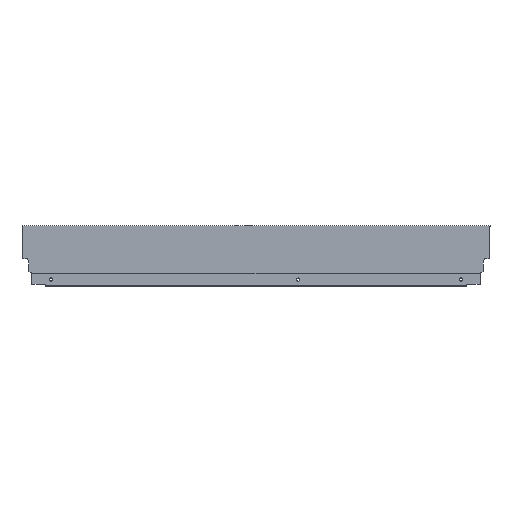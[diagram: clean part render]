
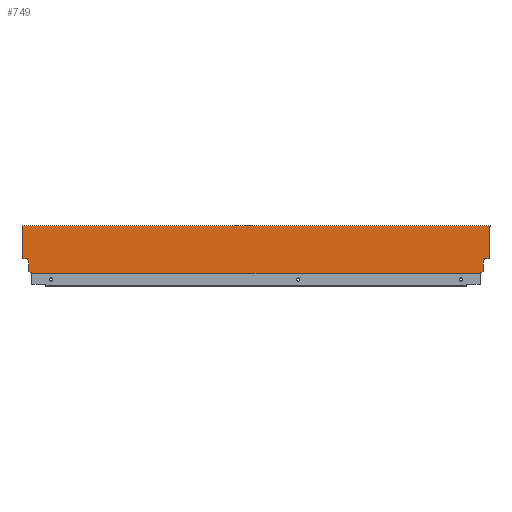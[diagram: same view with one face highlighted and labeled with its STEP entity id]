
A CAD part, top view. The second image highlights one B-rep face of the part: STEP entity #749.
In plain terms, the highlighted planar face has unit normal (0, 0, 1).
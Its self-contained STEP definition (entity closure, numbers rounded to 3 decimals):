
#183 = FACE_OUTER_BOUND ( 'NONE', #221, .T. ) ;
#221 = EDGE_LOOP ( 'NONE', ( #470, #496, #408, #476, #482, #479, #483, #499, #510, #520, #480, #469, #531, #502, #484, #500, #465, #478 ) ) ;
#408 = ORIENTED_EDGE ( 'NONE', *, *, #1616, .T. ) ;
#465 = ORIENTED_EDGE ( 'NONE', *, *, #1631, .F. ) ;
#469 = ORIENTED_EDGE ( 'NONE', *, *, #1628, .F. ) ;
#470 = ORIENTED_EDGE ( 'NONE', *, *, #1620, .F. ) ;
#476 = ORIENTED_EDGE ( 'NONE', *, *, #1621, .T. ) ;
#478 = ORIENTED_EDGE ( 'NONE', *, *, #1633, .F. ) ;
#479 = ORIENTED_EDGE ( 'NONE', *, *, #1615, .F. ) ;
#480 = ORIENTED_EDGE ( 'NONE', *, *, #1626, .F. ) ;
#482 = ORIENTED_EDGE ( 'NONE', *, *, #1618, .F. ) ;
#483 = ORIENTED_EDGE ( 'NONE', *, *, #1622, .F. ) ;
#484 = ORIENTED_EDGE ( 'NONE', *, *, #1629, .F. ) ;
#496 = ORIENTED_EDGE ( 'NONE', *, *, #1619, .F. ) ;
#499 = ORIENTED_EDGE ( 'NONE', *, *, #1623, .F. ) ;
#500 = ORIENTED_EDGE ( 'NONE', *, *, #1597, .F. ) ;
#502 = ORIENTED_EDGE ( 'NONE', *, *, #1627, .F. ) ;
#510 = ORIENTED_EDGE ( 'NONE', *, *, #1624, .F. ) ;
#520 = ORIENTED_EDGE ( 'NONE', *, *, #1614, .T. ) ;
#531 = ORIENTED_EDGE ( 'NONE', *, *, #1625, .F. ) ;
#665 = VECTOR ( 'NONE', #1149, 1000. ) ;
#666 = LINE ( 'NONE', #1148, #665 ) ;
#669 = VECTOR ( 'NONE', #1145, 1000. ) ;
#670 = LINE ( 'NONE', #1144, #669 ) ;
#673 = VECTOR ( 'NONE', #1141, 1000. ) ;
#674 = LINE ( 'NONE', #1140, #673 ) ;
#675 = VECTOR ( 'NONE', #1139, 1000. ) ;
#676 = LINE ( 'NONE', #1138, #675 ) ;
#677 = VECTOR ( 'NONE', #1137, 1000. ) ;
#678 = LINE ( 'NONE', #1136, #677 ) ;
#679 = VECTOR ( 'NONE', #1135, 1000. ) ;
#680 = LINE ( 'NONE', #1134, #679 ) ;
#681 = VECTOR ( 'NONE', #1133, 1000. ) ;
#682 = LINE ( 'NONE', #1132, #681 ) ;
#683 = VECTOR ( 'NONE', #1131, 1000. ) ;
#684 = LINE ( 'NONE', #1130, #683 ) ;
#685 = VECTOR ( 'NONE', #1129, 1000. ) ;
#686 = LINE ( 'NONE', #1128, #685 ) ;
#687 = VECTOR ( 'NONE', #1127, 1000. ) ;
#688 = LINE ( 'NONE', #1126, #687 ) ;
#690 = VECTOR ( 'NONE', #1125, 1000. ) ;
#691 = VECTOR ( 'NONE', #1123, 1000. ) ;
#692 = LINE ( 'NONE', #1122, #691 ) ;
#693 = VECTOR ( 'NONE', #1121, 1000. ) ;
#694 = LINE ( 'NONE', #1120, #693 ) ;
#695 = VECTOR ( 'NONE', #1119, 1000. ) ;
#696 = LINE ( 'NONE', #1118, #695 ) ;
#699 = VECTOR ( 'NONE', #1115, 1000. ) ;
#700 = LINE ( 'NONE', #1114, #699 ) ;
#702 = VECTOR ( 'NONE', #1113, 1000. ) ;
#704 = LINE ( 'NONE', #1105, #702 ) ;
#706 = VECTOR ( 'NONE', #1111, 1000. ) ;
#707 = LINE ( 'NONE', #1112, #690 ) ;
#712 = LINE ( 'NONE', #1110, #706 ) ;
#734 = VECTOR ( 'NONE', #1074, 1000. ) ;
#735 = LINE ( 'NONE', #1073, #734 ) ;
#749 = ADVANCED_FACE ( 'NONE', ( #183 ), #1458, .T. ) ;
#948 = CARTESIAN_POINT ( 'NONE',  ( -652.1, 2.64, 7.5 ) ) ;
#950 = CARTESIAN_POINT ( 'NONE',  ( -647.996, 0., 7.5 ) ) ;
#962 = CARTESIAN_POINT ( 'NONE',  ( -662., 68., 7.5 ) ) ;
#963 = CARTESIAN_POINT ( 'NONE',  ( -13.004, 0., 7.5 ) ) ;
#968 = CARTESIAN_POINT ( 'NONE',  ( -662., 66.5, 7.5 ) ) ;
#980 = CARTESIAN_POINT ( 'NONE',  ( -652.1, 10.765, 7.5 ) ) ;
#983 = CARTESIAN_POINT ( 'NONE',  ( 0., 21.2, 7.5 ) ) ;
#991 = CARTESIAN_POINT ( 'NONE',  ( -8.9, 2.64, 7.5 ) ) ;
#993 = CARTESIAN_POINT ( 'NONE',  ( -661., 66.5, 7.5 ) ) ;
#997 = CARTESIAN_POINT ( 'NONE',  ( -653.94, 21.2, 7.5 ) ) ;
#1004 = CARTESIAN_POINT ( 'NONE',  ( -661., 21.2, 7.5 ) ) ;
#1009 = CARTESIAN_POINT ( 'NONE',  ( -7.06, 21.2, 7.5 ) ) ;
#1010 = CARTESIAN_POINT ( 'NONE',  ( 1., 68., 7.5 ) ) ;
#1018 = CARTESIAN_POINT ( 'NONE',  ( 1., 66.5, 7.5 ) ) ;
#1031 = CARTESIAN_POINT ( 'NONE',  ( -13.004, 1.146, 7.5 ) ) ;
#1032 = CARTESIAN_POINT ( 'NONE',  ( 0., 66.5, 7.5 ) ) ;
#1033 = CARTESIAN_POINT ( 'NONE',  ( -8.9, 10.765, 7.5 ) ) ;
#1035 = CARTESIAN_POINT ( 'NONE',  ( -647.996, 1.146, 7.5 ) ) ;
#1073 = CARTESIAN_POINT ( 'NONE',  ( 0., 0., 7.5 ) ) ;
#1074 = DIRECTION ( 'NONE',  ( 0., -1., 0. ) ) ;
#1105 = CARTESIAN_POINT ( 'NONE',  ( -653.94, 21.2, 7.5 ) ) ;
#1110 = CARTESIAN_POINT ( 'NONE',  ( -661., 0., 7.5 ) ) ;
#1111 = DIRECTION ( 'NONE',  ( 1., 0., 0. ) ) ;
#1112 = CARTESIAN_POINT ( 'NONE',  ( -661., 0., 7.5 ) ) ;
#1113 = DIRECTION ( 'NONE',  ( -0.174, 0.985, 0. ) ) ;
#1114 = CARTESIAN_POINT ( 'NONE',  ( -662., 66.5, 7.5 ) ) ;
#1115 = DIRECTION ( 'NONE',  ( 1., 0., 0. ) ) ;
#1118 = CARTESIAN_POINT ( 'NONE',  ( -666., 21.2, 7.5 ) ) ;
#1119 = DIRECTION ( 'NONE',  ( -1., 0., 0. ) ) ;
#1120 = CARTESIAN_POINT ( 'NONE',  ( -662., 66.5, 7.5 ) ) ;
#1121 = DIRECTION ( 'NONE',  ( 0., 1., 0. ) ) ;
#1122 = CARTESIAN_POINT ( 'NONE',  ( -661., 68., 7.5 ) ) ;
#1123 = DIRECTION ( 'NONE',  ( 1., 0., 0. ) ) ;
#1125 = DIRECTION ( 'NONE',  ( 0., -1., 0. ) ) ;
#1126 = CARTESIAN_POINT ( 'NONE',  ( -652.1, 10.765, 7.5 ) ) ;
#1127 = DIRECTION ( 'NONE',  ( 0., 1., 0. ) ) ;
#1128 = CARTESIAN_POINT ( 'NONE',  ( -652.1, 2.64, 7.5 ) ) ;
#1129 = DIRECTION ( 'NONE',  ( -0.94, 0.342, 0. ) ) ;
#1130 = CARTESIAN_POINT ( 'NONE',  ( -647.996, 1.146, 7.5 ) ) ;
#1131 = DIRECTION ( 'NONE',  ( 0., 1., 0. ) ) ;
#1132 = CARTESIAN_POINT ( 'NONE',  ( -8.9, 10.765, 7.5 ) ) ;
#1133 = DIRECTION ( 'NONE',  ( 0., -1., 0. ) ) ;
#1134 = CARTESIAN_POINT ( 'NONE',  ( -13.004, 1.146, 7.5 ) ) ;
#1135 = DIRECTION ( 'NONE',  ( 0., -1., 0. ) ) ;
#1136 = CARTESIAN_POINT ( 'NONE',  ( -7.06, 21.2, 7.5 ) ) ;
#1137 = DIRECTION ( 'NONE',  ( -0.174, -0.985, 0. ) ) ;
#1138 = CARTESIAN_POINT ( 'NONE',  ( -8.9, 2.64, 7.5 ) ) ;
#1139 = DIRECTION ( 'NONE',  ( -0.94, -0.342, 0. ) ) ;
#1140 = CARTESIAN_POINT ( 'NONE',  ( 0., 21.2, 7.5 ) ) ;
#1141 = DIRECTION ( 'NONE',  ( -1., 0., 0. ) ) ;
#1144 = CARTESIAN_POINT ( 'NONE',  ( 1., 66.5, 7.5 ) ) ;
#1145 = DIRECTION ( 'NONE',  ( -1., 0., 0. ) ) ;
#1148 = CARTESIAN_POINT ( 'NONE',  ( 1., 68., 7.5 ) ) ;
#1149 = DIRECTION ( 'NONE',  ( 0., -1., 0. ) ) ;
#1312 = AXIS2_PLACEMENT_3D ( 'NONE', #1442, #1436, #1435 ) ;
#1435 = DIRECTION ( 'NONE',  ( 1., 0., 0. ) ) ;
#1436 = DIRECTION ( 'NONE',  ( 0., 0., 1. ) ) ;
#1442 = CARTESIAN_POINT ( 'NONE',  ( -661., 0., 7.5 ) ) ;
#1458 = PLANE ( 'NONE',  #1312 ) ;
#1486 = VERTEX_POINT ( 'NONE', #948 ) ;
#1488 = VERTEX_POINT ( 'NONE', #950 ) ;
#1500 = VERTEX_POINT ( 'NONE', #962 ) ;
#1501 = VERTEX_POINT ( 'NONE', #963 ) ;
#1506 = VERTEX_POINT ( 'NONE', #968 ) ;
#1518 = VERTEX_POINT ( 'NONE', #980 ) ;
#1521 = VERTEX_POINT ( 'NONE', #983 ) ;
#1529 = VERTEX_POINT ( 'NONE', #991 ) ;
#1531 = VERTEX_POINT ( 'NONE', #993 ) ;
#1535 = VERTEX_POINT ( 'NONE', #997 ) ;
#1542 = VERTEX_POINT ( 'NONE', #1004 ) ;
#1547 = VERTEX_POINT ( 'NONE', #1009 ) ;
#1548 = VERTEX_POINT ( 'NONE', #1010 ) ;
#1556 = VERTEX_POINT ( 'NONE', #1018 ) ;
#1569 = VERTEX_POINT ( 'NONE', #1031 ) ;
#1570 = VERTEX_POINT ( 'NONE', #1032 ) ;
#1571 = VERTEX_POINT ( 'NONE', #1033 ) ;
#1575 = VERTEX_POINT ( 'NONE', #1035 ) ;
#1597 = EDGE_CURVE ( 'NONE', #1570, #1521, #735, .T. ) ;
#1614 = EDGE_CURVE ( 'NONE', #1488, #1501, #712, .T. ) ;
#1615 = EDGE_CURVE ( 'NONE', #1518, #1535, #704, .T. ) ;
#1616 = EDGE_CURVE ( 'NONE', #1506, #1531, #700, .T. ) ;
#1618 = EDGE_CURVE ( 'NONE', #1535, #1542, #696, .T. ) ;
#1619 = EDGE_CURVE ( 'NONE', #1506, #1500, #694, .T. ) ;
#1620 = EDGE_CURVE ( 'NONE', #1500, #1548, #692, .T. ) ;
#1621 = EDGE_CURVE ( 'NONE', #1531, #1542, #707, .T. ) ;
#1622 = EDGE_CURVE ( 'NONE', #1486, #1518, #688, .T. ) ;
#1623 = EDGE_CURVE ( 'NONE', #1575, #1486, #686, .T. ) ;
#1624 = EDGE_CURVE ( 'NONE', #1488, #1575, #684, .T. ) ;
#1625 = EDGE_CURVE ( 'NONE', #1571, #1529, #682, .T. ) ;
#1626 = EDGE_CURVE ( 'NONE', #1569, #1501, #680, .T. ) ;
#1627 = EDGE_CURVE ( 'NONE', #1547, #1571, #678, .T. ) ;
#1628 = EDGE_CURVE ( 'NONE', #1529, #1569, #676, .T. ) ;
#1629 = EDGE_CURVE ( 'NONE', #1521, #1547, #674, .T. ) ;
#1631 = EDGE_CURVE ( 'NONE', #1556, #1570, #670, .T. ) ;
#1633 = EDGE_CURVE ( 'NONE', #1548, #1556, #666, .T. ) ;
